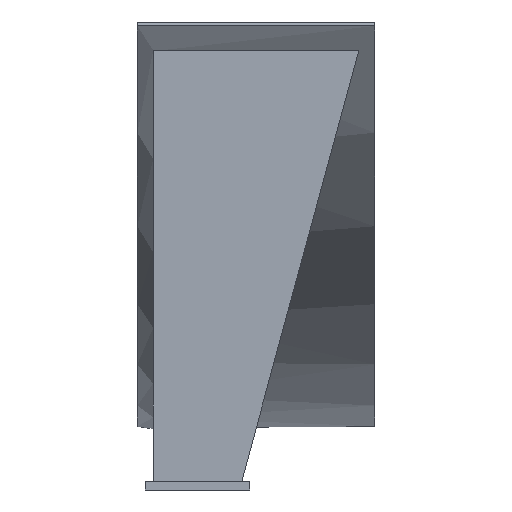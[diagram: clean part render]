
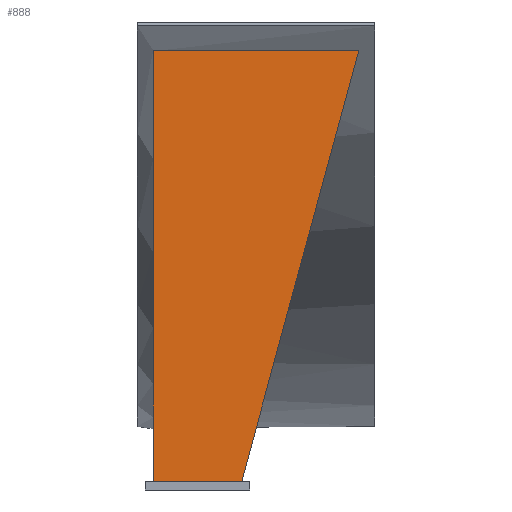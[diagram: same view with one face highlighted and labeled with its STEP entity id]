
A CAD part, front view. The second image highlights one B-rep face of the part: STEP entity #888.
In plain terms, the highlighted planar face has unit normal (0, -1, 0).
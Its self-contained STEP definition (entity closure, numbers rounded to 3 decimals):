
#82=FACE_OUTER_BOUND('',#128,.T.);
#128=EDGE_LOOP('',(#691,#692,#693,#694));
#219=LINE('',#1402,#323);
#223=LINE('',#1410,#327);
#224=LINE('',#1412,#328);
#225=LINE('',#1413,#329);
#323=VECTOR('',#1151,10.);
#327=VECTOR('',#1157,10.);
#328=VECTOR('',#1158,10.);
#329=VECTOR('',#1159,10.);
#417=VERTEX_POINT('',#1400);
#418=VERTEX_POINT('',#1401);
#421=VERTEX_POINT('',#1409);
#422=VERTEX_POINT('',#1411);
#522=EDGE_CURVE('',#417,#418,#219,.T.);
#526=EDGE_CURVE('',#421,#418,#223,.T.);
#527=EDGE_CURVE('',#422,#421,#224,.T.);
#528=EDGE_CURVE('',#417,#422,#225,.T.);
#691=ORIENTED_EDGE('',*,*,#522,.T.);
#692=ORIENTED_EDGE('',*,*,#526,.F.);
#693=ORIENTED_EDGE('',*,*,#527,.F.);
#694=ORIENTED_EDGE('',*,*,#528,.F.);
#844=PLANE('',#971);
#888=ADVANCED_FACE('',(#82),#844,.T.);
#971=AXIS2_PLACEMENT_3D('',#1408,#1155,#1156);
#1151=DIRECTION('',(0.262,0.,0.965));
#1155=DIRECTION('center_axis',(0.,-1.,0.));
#1156=DIRECTION('ref_axis',(0.,0.,-1.));
#1157=DIRECTION('',(1.,0.,0.));
#1158=DIRECTION('',(0.,0.,1.));
#1159=DIRECTION('',(-1.,0.,0.));
#1400=CARTESIAN_POINT('',(140.,-2190.,28.));
#1401=CARTESIAN_POINT('',(510.,-2190.,1389.477));
#1402=CARTESIAN_POINT('',(302.648,-2190.,626.49));
#1408=CARTESIAN_POINT('Origin',(-140.,-2190.,1389.477));
#1409=CARTESIAN_POINT('',(-140.,-2190.,1389.477));
#1410=CARTESIAN_POINT('',(-140.,-2190.,1389.477));
#1411=CARTESIAN_POINT('',(-140.,-2190.,28.));
#1412=CARTESIAN_POINT('',(-140.,-2190.,28.));
#1413=CARTESIAN_POINT('',(-70.,-2190.,28.));
